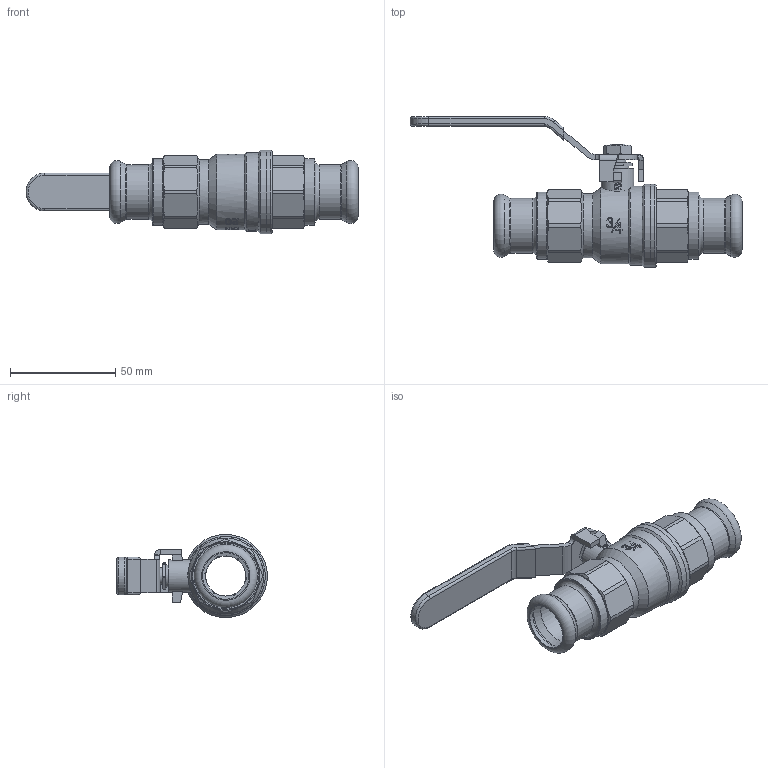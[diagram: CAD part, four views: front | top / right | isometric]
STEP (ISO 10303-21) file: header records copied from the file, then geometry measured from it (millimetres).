
FILE_DESCRIPTION((''),'2;1');
FILE_NAME('P:\Fastrack\53972_CRANE 3D\Press Fit\Fig_100PF\100-PF\22MM\Fig_100-PF-22MM.stp','2012-01-18T10:05:01',('dcole'),(''),'Autodesk Inventor 2008','Autodesk Inventor 2008','');
FILE_SCHEMA(('AUTOMOTIVE_DESIGN { 1 0 10303 214 1 1 1 1 }'));
Length unit declared in the file: millimetre
Products named in the file (1): Part37
Bounding box: 157.6 x 71.55 x 39.5 mm (x, y, z)
Volume: 60487.7 mm3; surface area: 38876.7 mm2
Topology: 1 solids, 13 shells, 676 faces, 2061 edges, 1514 vertices
Faces by surface type: plane 317, cylinder 130, bspline 123, cone 79, torus 24, sphere 3
Full cylindrical faces by diameter (mm): 2 x2, 8 x1, 8.1 x2, 8.3 x1, 9 x1, 9.5 x1, 10.5 x1, 10.6 x1, 10.75 x1, 15.5 x1, 17 x1, 19.6 x1, 20 x4, 22 x4, 23.5 x2, 24.117 x2, 26 x4, 27 x4, 27.45 x2, 30.5 x1, 31.8 x2, 32.5 x1, 34 x1, 34.2 x1, 36 x1, 37.5 x1, 39.5 x2
Entity records: 53350 total; most frequent: CARTESIAN_POINT 35781, ORIENTED_EDGE 3784, DIRECTION 2915, EDGE_CURVE 1892, VERTEX_POINT 1460, AXIS2_PLACEMENT_3D 1029, EDGE_LOOP 938, VECTOR 857
